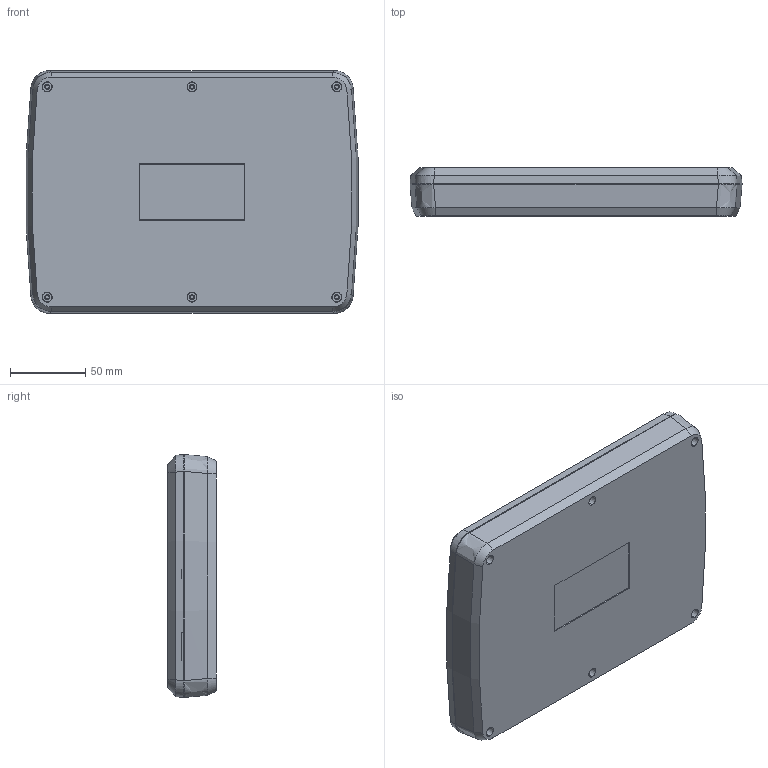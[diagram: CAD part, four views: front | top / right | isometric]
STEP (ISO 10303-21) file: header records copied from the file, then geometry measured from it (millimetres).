
FILE_DESCRIPTION (( 'STEP AP203' ), '1' );
FILE_NAME ('PH2070.STEP', '2014-11-19T10:18:30', ( 'admin' ), ( 'Hewlett-Packard Company' ), 'SwSTEP 2.0', 'SolidWorks 2014', '' );
FILE_SCHEMA (( 'CONFIG_CONTROL_DESIGN' ));
Length unit declared in the file: millimetre
Products named in the file (3): PH2070
Assembly tree (2 placements, depth 2):
  PH2070
    PH2070
    PH2070
Bounding box: 220.17 x 32 x 161 mm (x, y, z)
Volume: 216811.6 mm3; surface area: 185995.4 mm2
Topology: 2 solids, 2 shells, 426 faces, 988 edges, 644 vertices
Faces by surface type: plane 158, cone 150, bspline 62, cylinder 56
Entity records: 17342 total; most frequent: CARTESIAN_POINT 7538, ORIENTED_EDGE 1976, DIRECTION 1906, EDGE_CURVE 988, AXIS2_PLACEMENT_3D 777, VERTEX_POINT 644, EDGE_LOOP 516, FACE_OUTER_BOUND 426
